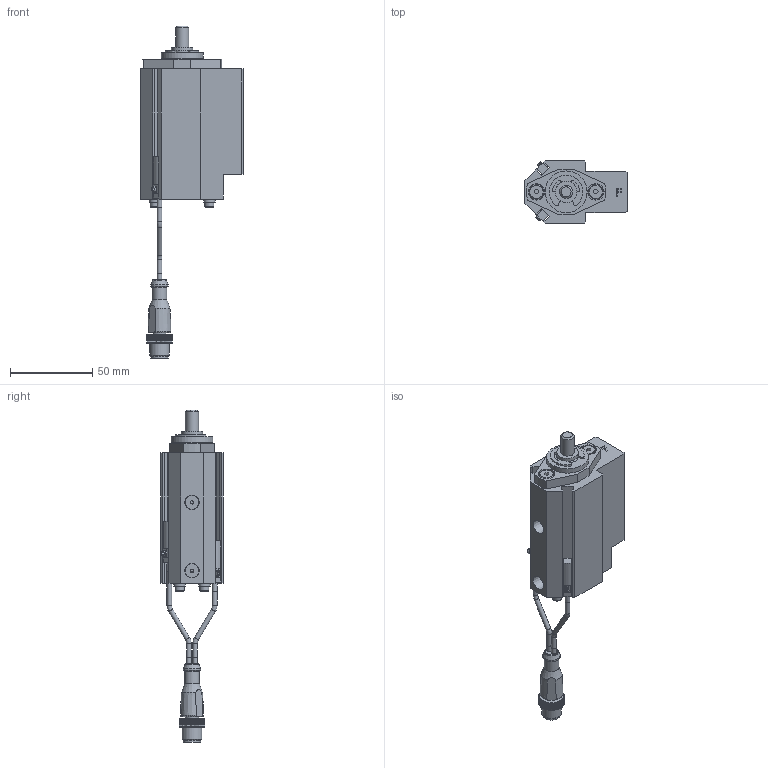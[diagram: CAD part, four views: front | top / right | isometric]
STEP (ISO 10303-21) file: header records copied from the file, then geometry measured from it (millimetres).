
FILE_DESCRIPTION(/* description */ ('NAAMS FLOATING MICRO PIN'),/* implementation_level */ '2;1');
FILE_NAME(/* name */ 'C:\Vault Workspace\CAD\Welker\Shot Pin\NMP\NMP080012EFNL3.stp',/* time_stamp */ '2021-01-28T11:35:21-05:00',/* author */ ('WELKER'),/* organization */ (''),/* preprocessor_version */ 'ST-DEVELOPER v18.1',/* originating_system */ 'Autodesk Inventor 2020',/* authorisation */ '');
FILE_SCHEMA (('AUTOMOTIVE_DESIGN { 1 0 10303 214 3 1 1 }'));
Length unit declared in the file: millimetre
Products named in the file (16): NMPL01; NMP L3 SWITCH; L3 Connector; L3 Sensor 1; L3 Sensor 2; L3 Sensor cable; L3 Sensor cable 2; M3X0.5-8 SHCS; NL3; NMPE06; NMPE03; NMPE04-DIA-LENGTH; 985432A218; NMPE01F-PORT; RMPE02; M5X5 SHOULDER
Assembly tree (22 placements, depth 3):
  NMPL01
    NMP L3 SWITCH
      L3 Connector
      L3 Sensor 1
      L3 Sensor 2
      L3 Sensor cable
      L3 Sensor cable 2
    M3X0.5-8 SHCS  x4
    NL3  x4
    NMPE06
    NMPE03
    NMPE04-DIA-LENGTH
    985432A218
    NMPE01F-PORT
    RMPE02
    M5X5 SHOULDER  x2
Bounding box: 62 x 38.1 x 201.52 mm (x, y, z)
Volume: 112086.7 mm3; surface area: 44649.5 mm2
Topology: 21 solids, 21 shells, 746 faces, 2019 edges, 1349 vertices
Faces by surface type: plane 552, cylinder 144, cone 35, torus 11, bspline 2, sphere 2
Full cylindrical faces by diameter (mm): 2 x2, 2.459 x4, 2.9 x10, 3 x5, 3.242 x2, 3.4 x4, 4 x2, 5 x6, 5.5 x4, 7 x4, 8 x3, 8.3 x2, 8.376 x2, 9 x3, 10 x3, 10.4 x1, 10.5 x1, 12 x1, 13 x3, 16 x2, 19.05 x3, 21 x1, 22.5 x1, 23.672 x1, 24 x1, 25.4 x1, 25.5 x1, 26.5 x1, 28.677 x1, 29.21 x1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
Entity records: 22754 total; most frequent: CARTESIAN_POINT 4161, ORIENTED_EDGE 3732, DIRECTION 3719, EDGE_CURVE 1866, LINE 1381, VECTOR 1381, VERTEX_POINT 1254, AXIS2_PLACEMENT_3D 1169
